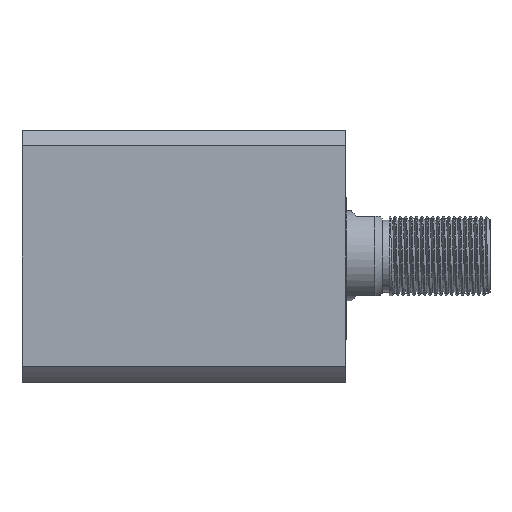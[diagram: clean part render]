
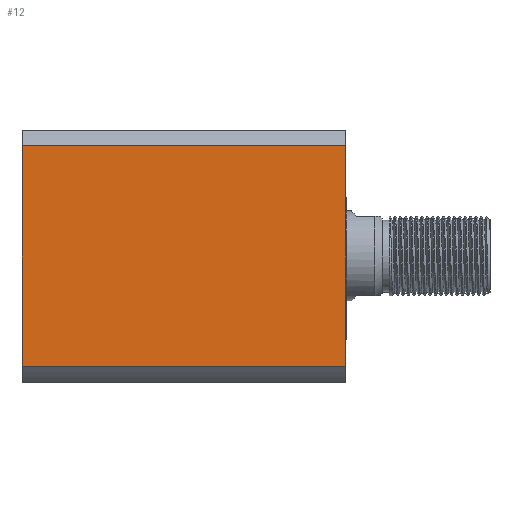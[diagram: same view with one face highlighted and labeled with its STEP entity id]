
A CAD part, left-side view. The second image highlights one B-rep face of the part: STEP entity #12.
In plain terms, the highlighted planar face has unit normal (-1, 0, 0).
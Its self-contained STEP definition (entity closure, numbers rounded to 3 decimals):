
#12 = ADVANCED_FACE ( 'NONE', ( #12650 ), #9776, .F. ) ;
#372 = CARTESIAN_POINT ( 'NONE',  ( -35., -30.615, 300. ) ) ;
#474 = CARTESIAN_POINT ( 'NONE',  ( -35., 30.615, 0. ) ) ;
#491 = EDGE_LOOP ( 'NONE', ( #9599, #10535, #11609, #4950 ) ) ;
#746 = VECTOR ( 'NONE', #2311, 1000. ) ;
#1763 = VERTEX_POINT ( 'NONE', #8235 ) ;
#2257 = DIRECTION ( 'NONE',  ( 0., -1., 0. ) ) ;
#2311 = DIRECTION ( 'NONE',  ( 0., -1., 0. ) ) ;
#3916 = LINE ( 'NONE', #8721, #746 ) ;
#4334 = VECTOR ( 'NONE', #4763, 1000. ) ;
#4553 = LINE ( 'NONE', #8663, #7403 ) ;
#4763 = DIRECTION ( 'NONE',  ( 0., 0., -1. ) ) ;
#4876 = EDGE_CURVE ( 'NONE', #1763, #8863, #7168, .T. ) ;
#4950 = ORIENTED_EDGE ( 'NONE', *, *, #12831, .T. ) ;
#5600 = DIRECTION ( 'NONE',  ( 0., 1., 0. ) ) ;
#5680 = DIRECTION ( 'NONE',  ( 1., 0., 0. ) ) ;
#5692 = VERTEX_POINT ( 'NONE', #474 ) ;
#7095 = VECTOR ( 'NONE', #13607, 1000. ) ;
#7168 = LINE ( 'NONE', #372, #4334 ) ;
#7230 = VERTEX_POINT ( 'NONE', #10726 ) ;
#7403 = VECTOR ( 'NONE', #2257, 1000. ) ;
#8235 = CARTESIAN_POINT ( 'NONE',  ( -35., -30.615, 90. ) ) ;
#8663 = CARTESIAN_POINT ( 'NONE',  ( -35., 35., 90. ) ) ;
#8721 = CARTESIAN_POINT ( 'NONE',  ( -35., 35., 0. ) ) ;
#8863 = VERTEX_POINT ( 'NONE', #13587 ) ;
#9599 = ORIENTED_EDGE ( 'NONE', *, *, #4876, .F. ) ;
#9776 = PLANE ( 'NONE',  #10124 ) ;
#9923 = LINE ( 'NONE', #13510, #7095 ) ;
#10124 = AXIS2_PLACEMENT_3D ( 'NONE', #12819, #5680, #5600 ) ;
#10535 = ORIENTED_EDGE ( 'NONE', *, *, #10611, .F. ) ;
#10611 = EDGE_CURVE ( 'NONE', #7230, #1763, #4553, .T. ) ;
#10726 = CARTESIAN_POINT ( 'NONE',  ( -35., 30.615, 90. ) ) ;
#11609 = ORIENTED_EDGE ( 'NONE', *, *, #12631, .F. ) ;
#12631 = EDGE_CURVE ( 'NONE', #5692, #7230, #9923, .T. ) ;
#12650 = FACE_OUTER_BOUND ( 'NONE', #491, .T. ) ;
#12819 = CARTESIAN_POINT ( 'NONE',  ( -35., 35., 90. ) ) ;
#12831 = EDGE_CURVE ( 'NONE', #5692, #8863, #3916, .T. ) ;
#13510 = CARTESIAN_POINT ( 'NONE',  ( -35., 30.615, 300. ) ) ;
#13587 = CARTESIAN_POINT ( 'NONE',  ( -35., -30.615, 0. ) ) ;
#13607 = DIRECTION ( 'NONE',  ( 0., 0., 1. ) ) ;
